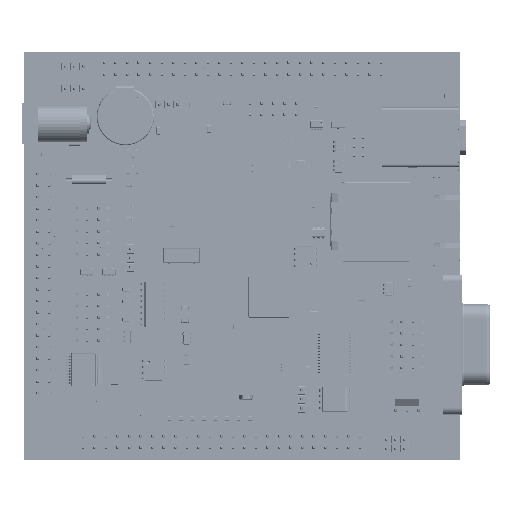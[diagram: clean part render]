
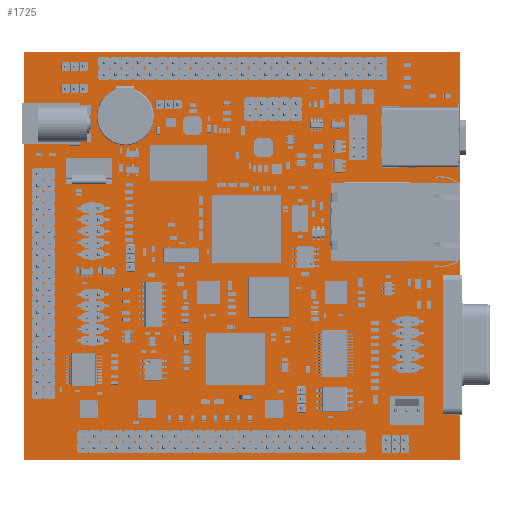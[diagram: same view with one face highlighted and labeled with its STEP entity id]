
A CAD part, top view. The second image highlights one B-rep face of the part: STEP entity #1725.
In plain terms, the highlighted planar face has unit normal (0, 0, 1).
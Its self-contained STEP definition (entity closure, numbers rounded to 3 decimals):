
#1596 = VERTEX_POINT('',#1597);
#1597 = CARTESIAN_POINT('',(-1.27,-1.27,1.56));
#1603 = EDGE_CURVE('',#1596,#1604,#1606,.T.);
#1604 = VERTEX_POINT('',#1605);
#1605 = CARTESIAN_POINT('',(-1.27,88.73,1.56));
#1606 = LINE('',#1607,#1608);
#1607 = CARTESIAN_POINT('',(-1.27,-1.27,1.56));
#1608 = VECTOR('',#1609,1.);
#1609 = DIRECTION('',(0.,1.,0.));
#1634 = EDGE_CURVE('',#1604,#1635,#1637,.T.);
#1635 = VERTEX_POINT('',#1636);
#1636 = CARTESIAN_POINT('',(94.73,88.73,1.56));
#1637 = LINE('',#1638,#1639);
#1638 = CARTESIAN_POINT('',(-1.27,88.73,1.56));
#1639 = VECTOR('',#1640,1.);
#1640 = DIRECTION('',(1.,0.,0.));
#1665 = EDGE_CURVE('',#1635,#1666,#1668,.T.);
#1666 = VERTEX_POINT('',#1667);
#1667 = CARTESIAN_POINT('',(94.73,-1.27,1.56));
#1668 = LINE('',#1669,#1670);
#1669 = CARTESIAN_POINT('',(94.73,88.73,1.56));
#1670 = VECTOR('',#1671,1.);
#1671 = DIRECTION('',(0.,-1.,0.));
#1696 = EDGE_CURVE('',#1666,#1596,#1697,.T.);
#1697 = LINE('',#1698,#1699);
#1698 = CARTESIAN_POINT('',(94.73,-1.27,1.56));
#1699 = VECTOR('',#1700,1.);
#1700 = DIRECTION('',(-1.,0.,0.));
#1725 = ADVANCED_FACE('',(#1726),#1732,.F.);
#1726 = FACE_BOUND('',#1727,.F.);
#1727 = EDGE_LOOP('',(#1728,#1729,#1730,#1731));
#1728 = ORIENTED_EDGE('',*,*,#1603,.T.);
#1729 = ORIENTED_EDGE('',*,*,#1634,.T.);
#1730 = ORIENTED_EDGE('',*,*,#1665,.T.);
#1731 = ORIENTED_EDGE('',*,*,#1696,.T.);
#1732 = PLANE('',#1733);
#1733 = AXIS2_PLACEMENT_3D('',#1734,#1735,#1736);
#1734 = CARTESIAN_POINT('',(46.73,43.73,1.56));
#1735 = DIRECTION('',(-0.,-0.,-1.));
#1736 = DIRECTION('',(-1.,0.,0.));
